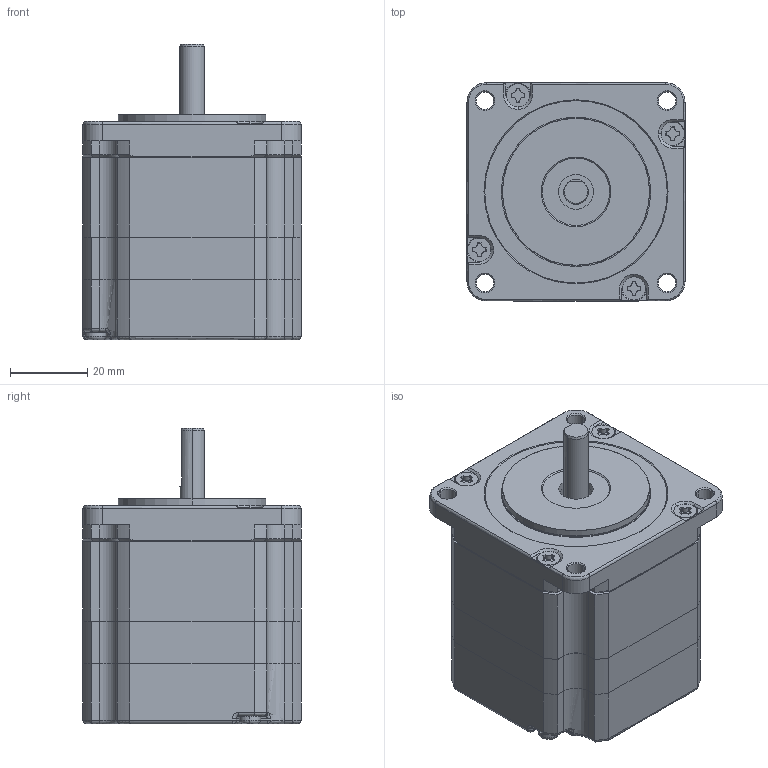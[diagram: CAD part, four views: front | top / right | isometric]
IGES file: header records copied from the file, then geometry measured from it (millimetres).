
Start section: SolidWorks IGES file using analytic representation for surfaces
Global section: file name: \\192.168.10.221\kari\7677\ステップ\PMSB-B56D1E\PMSB-B56D1E.IGS; native system: SolidWorks 2009; preprocessor: SolidWorks 2009; author: 3dcad; date: 110331.153602; units: millimetre
Bounding box: 56.4 x 56.4 x 76.5 mm (x, y, z)
Volume: 77960.6 mm3; surface area: 61816.9 mm2
Topology: 29 solids, 29 shells, 1567 faces, 4066 edges, 2549 vertices
Faces by surface type: revolution 835, plane 714, bspline 18
